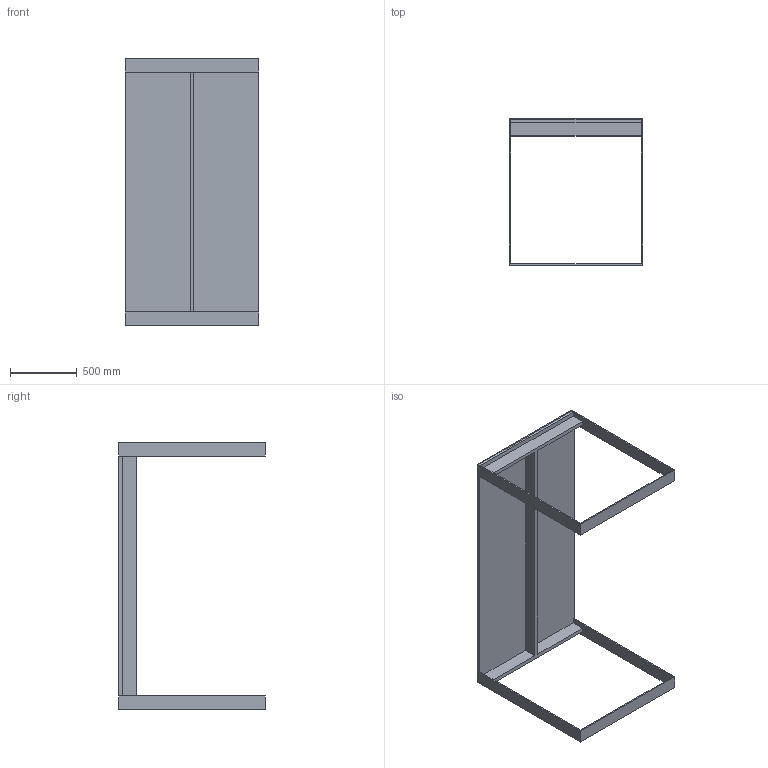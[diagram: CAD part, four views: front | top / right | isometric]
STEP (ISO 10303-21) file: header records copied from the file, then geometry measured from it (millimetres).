
FILE_DESCRIPTION (( 'STEP AP203' ), '1' );
FILE_NAME ('Haag 2000x1000x1100.STEP', '2019-04-02T18:12:13', ( '' ), ( '' ), 'SwSTEP 2.0', 'SolidWorks 2019', '' );
FILE_SCHEMA (( 'CONFIG_CONTROL_DESIGN' ));
Length unit declared in the file: millimetre
Products named in the file (1): Haag 2000x1000x1100
Bounding box: 1000 x 1100 x 2000 mm (x, y, z)
Volume: 77730000 mm3; surface area: 7000200 mm2
Topology: 4 solids, 4 shells, 48 faces, 120 edges, 80 vertices
Faces by surface type: plane 48
Entity records: 1483 total; most frequent: CARTESIAN_POINT 249, ORIENTED_EDGE 240, DIRECTION 218, VECTOR 120, EDGE_CURVE 120, LINE 120, VERTEX_POINT 80, EDGE_LOOP 52
